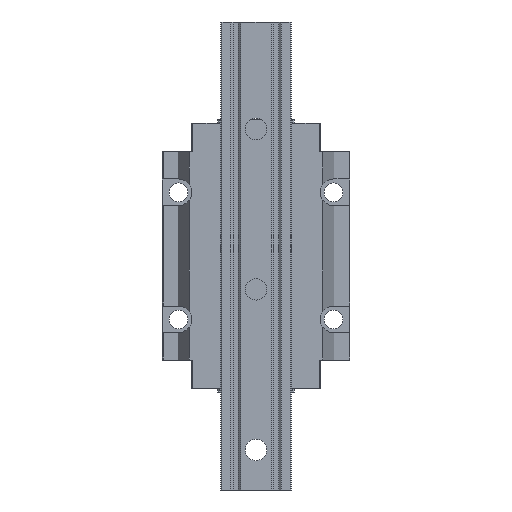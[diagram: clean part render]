
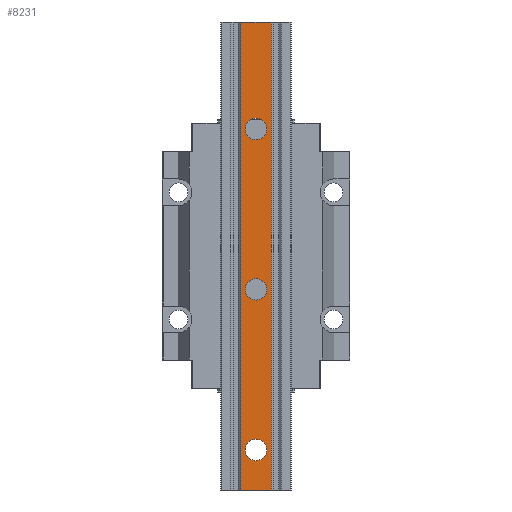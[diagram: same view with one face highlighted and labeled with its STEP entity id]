
A CAD part, front view. The second image highlights one B-rep face of the part: STEP entity #8231.
In plain terms, the highlighted planar face has unit normal (0, -1, 0).
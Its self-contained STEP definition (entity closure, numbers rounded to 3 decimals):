
#68 = DIRECTION ( 'NONE',  ( 0., 1., 0. ) ) ;
#133 = DIRECTION ( 'NONE',  ( 0., 0., 1. ) ) ;
#152 = CARTESIAN_POINT ( 'NONE',  ( -26.5, 0., -2168.884 ) ) ;
#279 = EDGE_LOOP ( 'NONE', ( #8062, #3749 ) ) ;
#306 = EDGE_LOOP ( 'NONE', ( #2327, #5732 ) ) ;
#332 = CIRCLE ( 'NONE', #6415, 8. ) ;
#376 = CARTESIAN_POINT ( 'NONE',  ( 11.357, 0., -1750. ) ) ;
#424 = EDGE_CURVE ( 'NONE', #987, #609, #6484, .T. ) ;
#444 = FACE_OUTER_BOUND ( 'NONE', #1496, .T. ) ;
#501 = CARTESIAN_POINT ( 'NONE',  ( 0., 0., -2078. ) ) ;
#561 = VECTOR ( 'NONE', #1115, 1000. ) ;
#601 = CARTESIAN_POINT ( 'NONE',  ( 0., 0., -2070. ) ) ;
#609 = VERTEX_POINT ( 'NONE', #376 ) ;
#740 = CARTESIAN_POINT ( 'NONE',  ( 0., 0., -1822. ) ) ;
#796 = CARTESIAN_POINT ( 'NONE',  ( 26.5, 0., -1750. ) ) ;
#834 = DIRECTION ( 'NONE',  ( 0., 1., 0. ) ) ;
#885 = VERTEX_POINT ( 'NONE', #501 ) ;
#902 = CARTESIAN_POINT ( 'NONE',  ( 0., 0., -2070. ) ) ;
#971 = VERTEX_POINT ( 'NONE', #4319 ) ;
#987 = VERTEX_POINT ( 'NONE', #2398 ) ;
#1031 = DIRECTION ( 'NONE',  ( 0., 1., 0. ) ) ;
#1084 = CARTESIAN_POINT ( 'NONE',  ( 0., 0., -1958. ) ) ;
#1101 = DIRECTION ( 'NONE',  ( 0., 0., -1. ) ) ;
#1115 = DIRECTION ( 'NONE',  ( 1., 0., 0. ) ) ;
#1123 = FACE_BOUND ( 'NONE', #306, .T. ) ;
#1206 = CARTESIAN_POINT ( 'NONE',  ( 0., 0., -1950. ) ) ;
#1318 = DIRECTION ( 'NONE',  ( 0., 0., 1. ) ) ;
#1413 = EDGE_CURVE ( 'NONE', #885, #971, #6784, .T. ) ;
#1496 = EDGE_LOOP ( 'NONE', ( #5933, #8025, #2775, #5090 ) ) ;
#1649 = EDGE_CURVE ( 'NONE', #8024, #5842, #2483, .T. ) ;
#1728 = EDGE_CURVE ( 'NONE', #971, #885, #4914, .T. ) ;
#1812 = CARTESIAN_POINT ( 'NONE',  ( 0., 0., -2100. ) ) ;
#2031 = CARTESIAN_POINT ( 'NONE',  ( -11.357, 0., -2100. ) ) ;
#2228 = LINE ( 'NONE', #1812, #561 ) ;
#2265 = DIRECTION ( 'NONE',  ( 0., 0., 1. ) ) ;
#2327 = ORIENTED_EDGE ( 'NONE', *, *, #1728, .T. ) ;
#2381 = ORIENTED_EDGE ( 'NONE', *, *, #1649, .T. ) ;
#2398 = CARTESIAN_POINT ( 'NONE',  ( 11.357, 0., -2100. ) ) ;
#2483 = CIRCLE ( 'NONE', #6270, 8. ) ;
#2495 = DIRECTION ( 'NONE',  ( 0., 0., 1. ) ) ;
#2513 = CIRCLE ( 'NONE', #7094, 8. ) ;
#2542 = EDGE_CURVE ( 'NONE', #5842, #8024, #332, .T. ) ;
#2573 = VERTEX_POINT ( 'NONE', #3003 ) ;
#2699 = EDGE_CURVE ( 'NONE', #7602, #3736, #2513, .T. ) ;
#2766 = DIRECTION ( 'NONE',  ( 0., -1., 0. ) ) ;
#2773 = DIRECTION ( 'NONE',  ( 0., 0., 1. ) ) ;
#2775 = ORIENTED_EDGE ( 'NONE', *, *, #424, .T. ) ;
#2802 = CARTESIAN_POINT ( 'NONE',  ( 0., 0., -1942. ) ) ;
#3003 = CARTESIAN_POINT ( 'NONE',  ( -11.357, 0., -1750. ) ) ;
#3026 = PLANE ( 'NONE',  #5929 ) ;
#3326 = CIRCLE ( 'NONE', #4966, 8. ) ;
#3368 = DIRECTION ( 'NONE',  ( -1., 0., 0. ) ) ;
#3541 = ORIENTED_EDGE ( 'NONE', *, *, #2542, .T. ) ;
#3687 = FACE_BOUND ( 'NONE', #279, .T. ) ;
#3736 = VERTEX_POINT ( 'NONE', #740 ) ;
#3749 = ORIENTED_EDGE ( 'NONE', *, *, #2699, .T. ) ;
#3764 = CARTESIAN_POINT ( 'NONE',  ( 11.357, 0., -2100. ) ) ;
#3851 = DIRECTION ( 'NONE',  ( 0., 1., 0. ) ) ;
#3871 = EDGE_CURVE ( 'NONE', #3736, #7602, #3326, .T. ) ;
#4240 = DIRECTION ( 'NONE',  ( 0., 1., 0. ) ) ;
#4319 = CARTESIAN_POINT ( 'NONE',  ( 0., 0., -2062. ) ) ;
#4441 = EDGE_CURVE ( 'NONE', #6186, #987, #2228, .T. ) ;
#4665 = LINE ( 'NONE', #796, #5011 ) ;
#4840 = DIRECTION ( 'NONE',  ( 0., 1., 0. ) ) ;
#4914 = CIRCLE ( 'NONE', #7740, 8. ) ;
#4966 = AXIS2_PLACEMENT_3D ( 'NONE', #6474, #3851, #1318 ) ;
#5011 = VECTOR ( 'NONE', #3368, 1000. ) ;
#5090 = ORIENTED_EDGE ( 'NONE', *, *, #5563, .T. ) ;
#5114 = DIRECTION ( 'NONE',  ( 0., 0., 1. ) ) ;
#5508 = CARTESIAN_POINT ( 'NONE',  ( -11.357, 0., -2168.884 ) ) ;
#5563 = EDGE_CURVE ( 'NONE', #609, #2573, #4665, .T. ) ;
#5732 = ORIENTED_EDGE ( 'NONE', *, *, #1413, .T. ) ;
#5788 = VECTOR ( 'NONE', #8303, 1000. ) ;
#5842 = VERTEX_POINT ( 'NONE', #2802 ) ;
#5929 = AXIS2_PLACEMENT_3D ( 'NONE', #152, #2766, #6060 ) ;
#5933 = ORIENTED_EDGE ( 'NONE', *, *, #8347, .T. ) ;
#6060 = DIRECTION ( 'NONE',  ( 0., 0., -1. ) ) ;
#6124 = AXIS2_PLACEMENT_3D ( 'NONE', #902, #4840, #2773 ) ;
#6186 = VERTEX_POINT ( 'NONE', #2031 ) ;
#6270 = AXIS2_PLACEMENT_3D ( 'NONE', #1206, #4240, #2495 ) ;
#6415 = AXIS2_PLACEMENT_3D ( 'NONE', #6710, #834, #133 ) ;
#6474 = CARTESIAN_POINT ( 'NONE',  ( 0., 0., -1830. ) ) ;
#6484 = LINE ( 'NONE', #3764, #5788 ) ;
#6585 = CARTESIAN_POINT ( 'NONE',  ( 0., 0., -1838. ) ) ;
#6710 = CARTESIAN_POINT ( 'NONE',  ( 0., 0., -1950. ) ) ;
#6784 = CIRCLE ( 'NONE', #6124, 8. ) ;
#7094 = AXIS2_PLACEMENT_3D ( 'NONE', #8050, #1031, #2265 ) ;
#7232 = EDGE_LOOP ( 'NONE', ( #3541, #2381 ) ) ;
#7602 = VERTEX_POINT ( 'NONE', #6585 ) ;
#7740 = AXIS2_PLACEMENT_3D ( 'NONE', #601, #68, #5114 ) ;
#7805 = VECTOR ( 'NONE', #1101, 1000. ) ;
#7998 = LINE ( 'NONE', #5508, #7805 ) ;
#8024 = VERTEX_POINT ( 'NONE', #1084 ) ;
#8025 = ORIENTED_EDGE ( 'NONE', *, *, #4441, .T. ) ;
#8050 = CARTESIAN_POINT ( 'NONE',  ( 0., 0., -1830. ) ) ;
#8062 = ORIENTED_EDGE ( 'NONE', *, *, #3871, .T. ) ;
#8221 = FACE_BOUND ( 'NONE', #7232, .T. ) ;
#8231 = ADVANCED_FACE ( 'NONE', ( #1123, #8221, #3687, #444 ), #3026, .T. ) ;
#8303 = DIRECTION ( 'NONE',  ( 0., 0., 1. ) ) ;
#8347 = EDGE_CURVE ( 'NONE', #2573, #6186, #7998, .T. ) ;
